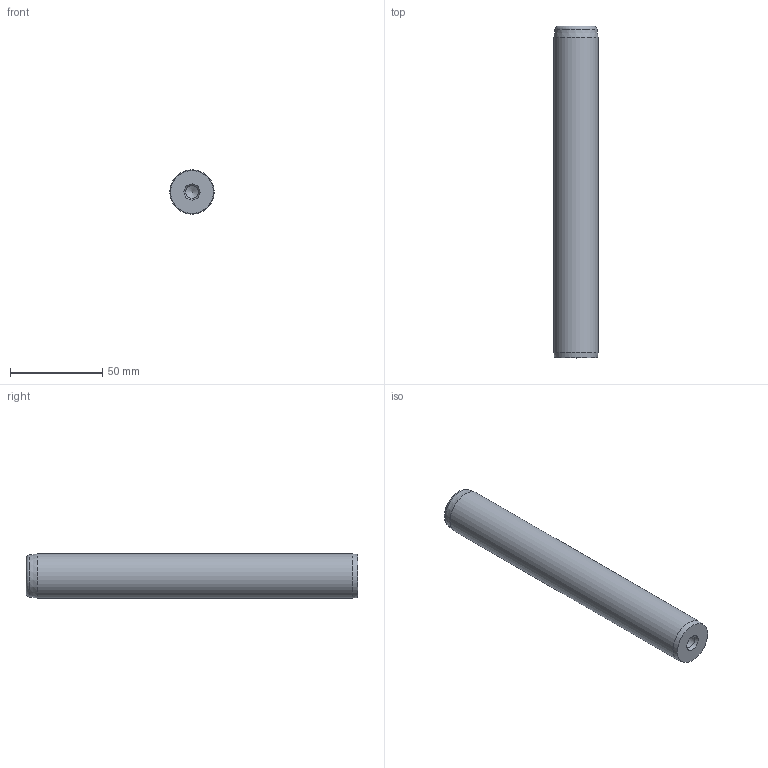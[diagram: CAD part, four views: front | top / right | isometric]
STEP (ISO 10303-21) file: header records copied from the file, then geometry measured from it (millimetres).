
FILE_DESCRIPTION( ( 'STEP AP203' ), '1' );
FILE_NAME( 'D:/Cuma/D14/D14_24180.step', '2003-01-18T23:31:44', ( ' ' ), ( ' ' ), 'XStep 1.0', ' ', ' ' );
FILE_SCHEMA( ( 'CONFIG_CONTROL_DESIGN' ) );
Length unit declared in the file: metre
Products named in the file (1): 1
Bounding box: 24 x 180 x 24 mm (x, y, z)
Volume: 79189.3 mm3; surface area: 15425.5 mm2
Topology: 1 solids, 1 shells, 14 faces, 29 edges, 17 vertices
Faces by surface type: cone 6, cylinder 5, plane 2, torus 1
Full cylindrical faces by diameter (mm): 6.75 x4, 24 x1
Entity records: 327 total; most frequent: DIRECTION 56, CARTESIAN_POINT 43, AXIS2_PLACEMENT_3D 28, EDGE_LOOP 26, ORIENTED_EDGE 26, FACE_OUTER_BOUND 20, VERTEX_POINT 15, ADVANCED_FACE 14
